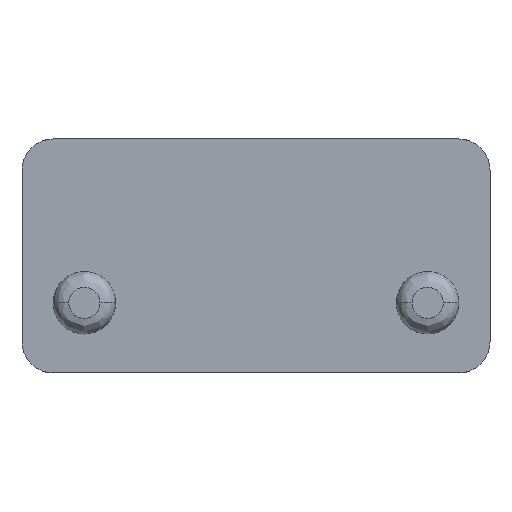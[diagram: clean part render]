
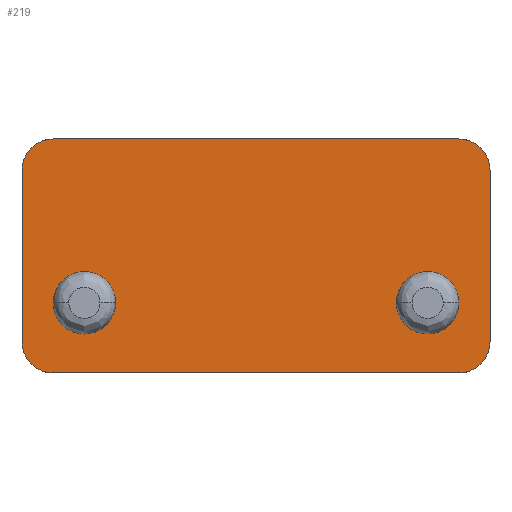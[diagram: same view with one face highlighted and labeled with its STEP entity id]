
A CAD part, left-side view. The second image highlights one B-rep face of the part: STEP entity #219.
In plain terms, the highlighted planar face has unit normal (-1, 0, 0).
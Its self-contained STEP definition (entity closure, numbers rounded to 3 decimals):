
#9 = VERTEX_POINT ( 'NONE', #563 ) ;
#14 = PLANE ( 'NONE',  #49 ) ;
#15 = EDGE_CURVE ( 'NONE', #395, #732, #393, .T. ) ;
#16 = CIRCLE ( 'NONE', #581, 2. ) ;
#21 = ORIENTED_EDGE ( 'NONE', *, *, #458, .F. ) ;
#28 = CARTESIAN_POINT ( 'NONE',  ( 0., -13., -4.5 ) ) ;
#35 = DIRECTION ( 'NONE',  ( 0., -1., 0. ) ) ;
#46 = ORIENTED_EDGE ( 'NONE', *, *, #561, .F. ) ;
#49 = AXIS2_PLACEMENT_3D ( 'NONE', #625, #387, #145 ) ;
#51 = VECTOR ( 'NONE', #674, 1000. ) ;
#71 = DIRECTION ( 'NONE',  ( 1., 0., 0. ) ) ;
#74 = DIRECTION ( 'NONE',  ( -1., 0., 0. ) ) ;
#93 = LINE ( 'NONE', #337, #530 ) ;
#94 = AXIS2_PLACEMENT_3D ( 'NONE', #768, #306, #981 ) ;
#109 = VERTEX_POINT ( 'NONE', #961 ) ;
#110 = CARTESIAN_POINT ( 'NONE',  ( 0., 0., -4.5 ) ) ;
#114 = VERTEX_POINT ( 'NONE', #969 ) ;
#124 = EDGE_LOOP ( 'NONE', ( #390, #653, #731, #415, #21, #46, #953, #326 ) ) ;
#125 = AXIS2_PLACEMENT_3D ( 'NONE', #454, #71, #347 ) ;
#145 = DIRECTION ( 'NONE',  ( 0., 0., -1. ) ) ;
#152 = DIRECTION ( 'NONE',  ( 0., 0., 1. ) ) ;
#167 = AXIS2_PLACEMENT_3D ( 'NONE', #487, #956, #886 ) ;
#168 = DIRECTION ( 'NONE',  ( -1., 0., 0. ) ) ;
#181 = CARTESIAN_POINT ( 'NONE',  ( 0., 11., -2. ) ) ;
#209 = CARTESIAN_POINT ( 'NONE',  ( 0., 15., 0. ) ) ;
#215 = CARTESIAN_POINT ( 'NONE',  ( 0., -11., 0. ) ) ;
#217 = VERTEX_POINT ( 'NONE', #524 ) ;
#219 = ADVANCED_FACE ( '1268', ( #536, #847, #230 ), #14, .F. ) ;
#222 = CARTESIAN_POINT ( 'NONE',  ( 0., 15., 8.5 ) ) ;
#228 = DIRECTION ( 'NONE',  ( 0., 0., 1. ) ) ;
#230 = FACE_OUTER_BOUND ( 'NONE', #124, .T. ) ;
#237 = EDGE_LOOP ( 'NONE', ( #403, #782 ) ) ;
#263 = CARTESIAN_POINT ( 'NONE',  ( 0., 13., 8.5 ) ) ;
#266 = EDGE_LOOP ( 'NONE', ( #853, #891 ) ) ;
#281 = CIRCLE ( 'NONE', #543, 2. ) ;
#298 = CIRCLE ( 'NONE', #377, 2. ) ;
#306 = DIRECTION ( 'NONE',  ( 1., 0., 0. ) ) ;
#308 = CARTESIAN_POINT ( 'NONE',  ( 0., 13., 10.5 ) ) ;
#320 = EDGE_CURVE ( 'NONE', #9, #391, #792, .T. ) ;
#324 = EDGE_CURVE ( 'NONE', #664, #109, #525, .T. ) ;
#326 = ORIENTED_EDGE ( 'NONE', *, *, #972, .F. ) ;
#337 = CARTESIAN_POINT ( 'NONE',  ( 0., 0., 10.5 ) ) ;
#339 = VERTEX_POINT ( 'NONE', #181 ) ;
#340 = CARTESIAN_POINT ( 'NONE',  ( 0., -15., 0. ) ) ;
#347 = DIRECTION ( 'NONE',  ( 0., 0., 1. ) ) ;
#348 = AXIS2_PLACEMENT_3D ( 'NONE', #770, #74, #228 ) ;
#377 = AXIS2_PLACEMENT_3D ( 'NONE', #263, #799, #579 ) ;
#387 = DIRECTION ( 'NONE',  ( 1., 0., 0. ) ) ;
#390 = ORIENTED_EDGE ( 'NONE', *, *, #570, .F. ) ;
#391 = VERTEX_POINT ( 'NONE', #811 ) ;
#393 = CIRCLE ( 'NONE', #167, 2. ) ;
#395 = VERTEX_POINT ( 'NONE', #730 ) ;
#403 = ORIENTED_EDGE ( 'NONE', *, *, #320, .F. ) ;
#406 = LINE ( 'NONE', #340, #51 ) ;
#415 = ORIENTED_EDGE ( 'NONE', *, *, #432, .F. ) ;
#432 = EDGE_CURVE ( 'NONE', #787, #395, #93, .T. ) ;
#454 = CARTESIAN_POINT ( 'NONE',  ( 0., -13., -2.5 ) ) ;
#458 = EDGE_CURVE ( 'NONE', #551, #787, #298, .T. ) ;
#477 = CARTESIAN_POINT ( 'NONE',  ( 0., 11., 0. ) ) ;
#484 = DIRECTION ( 'NONE',  ( 0., 0., 1. ) ) ;
#487 = CARTESIAN_POINT ( 'NONE',  ( 0., -13., 8.5 ) ) ;
#489 = VERTEX_POINT ( 'NONE', #28 ) ;
#524 = CARTESIAN_POINT ( 'NONE',  ( 0., -15., -2.5 ) ) ;
#525 = CIRCLE ( 'NONE', #94, 2. ) ;
#530 = VECTOR ( 'NONE', #35, 1000. ) ;
#534 = EDGE_CURVE ( 'NONE', #339, #114, #863, .T. ) ;
#536 = FACE_BOUND ( 'NONE', #237, .T. ) ;
#543 = AXIS2_PLACEMENT_3D ( 'NONE', #477, #548, #152 ) ;
#548 = DIRECTION ( 'NONE',  ( -1., 0., 0. ) ) ;
#551 = VERTEX_POINT ( 'NONE', #222 ) ;
#561 = EDGE_CURVE ( 'NONE', #109, #551, #904, .T. ) ;
#563 = CARTESIAN_POINT ( 'NONE',  ( 0., -11., 2. ) ) ;
#570 = EDGE_CURVE ( 'NONE', #217, #489, #913, .T. ) ;
#579 = DIRECTION ( 'NONE',  ( 0., 0., 1. ) ) ;
#581 = AXIS2_PLACEMENT_3D ( 'NONE', #737, #168, #484 ) ;
#585 = CARTESIAN_POINT ( 'NONE',  ( 0., 13., -4.5 ) ) ;
#625 = CARTESIAN_POINT ( 'NONE',  ( 0., 0., 0. ) ) ;
#632 = DIRECTION ( 'NONE',  ( 0., 0., 1. ) ) ;
#633 = EDGE_CURVE ( 'NONE', #732, #217, #406, .T. ) ;
#653 = ORIENTED_EDGE ( 'NONE', *, *, #633, .F. ) ;
#660 = DIRECTION ( 'NONE',  ( 0., 1., 0. ) ) ;
#664 = VERTEX_POINT ( 'NONE', #585 ) ;
#671 = VECTOR ( 'NONE', #767, 1000. ) ;
#674 = DIRECTION ( 'NONE',  ( 0., 0., -1. ) ) ;
#685 = VECTOR ( 'NONE', #660, 1000. ) ;
#730 = CARTESIAN_POINT ( 'NONE',  ( 0., -13., 10.5 ) ) ;
#731 = ORIENTED_EDGE ( 'NONE', *, *, #15, .F. ) ;
#732 = VERTEX_POINT ( 'NONE', #840 ) ;
#737 = CARTESIAN_POINT ( 'NONE',  ( 0., -11., 0. ) ) ;
#767 = DIRECTION ( 'NONE',  ( 0., 0., 1. ) ) ;
#768 = CARTESIAN_POINT ( 'NONE',  ( 0., 13., -2.5 ) ) ;
#770 = CARTESIAN_POINT ( 'NONE',  ( 0., 11., 0. ) ) ;
#782 = ORIENTED_EDGE ( 'NONE', *, *, #860, .F. ) ;
#787 = VERTEX_POINT ( 'NONE', #308 ) ;
#792 = CIRCLE ( 'NONE', #958, 2. ) ;
#799 = DIRECTION ( 'NONE',  ( 1., 0., 0. ) ) ;
#809 = LINE ( 'NONE', #110, #685 ) ;
#811 = CARTESIAN_POINT ( 'NONE',  ( 0., -11., -2. ) ) ;
#829 = EDGE_CURVE ( 'NONE', #114, #339, #281, .T. ) ;
#840 = CARTESIAN_POINT ( 'NONE',  ( 0., -15., 8.5 ) ) ;
#847 = FACE_BOUND ( 'NONE', #266, .T. ) ;
#853 = ORIENTED_EDGE ( 'NONE', *, *, #829, .F. ) ;
#860 = EDGE_CURVE ( 'NONE', #391, #9, #16, .T. ) ;
#863 = CIRCLE ( 'NONE', #348, 2. ) ;
#886 = DIRECTION ( 'NONE',  ( 0., 0., 1. ) ) ;
#891 = ORIENTED_EDGE ( 'NONE', *, *, #534, .F. ) ;
#904 = LINE ( 'NONE', #209, #671 ) ;
#913 = CIRCLE ( 'NONE', #125, 2. ) ;
#918 = DIRECTION ( 'NONE',  ( -1., 0., 0. ) ) ;
#953 = ORIENTED_EDGE ( 'NONE', *, *, #324, .F. ) ;
#956 = DIRECTION ( 'NONE',  ( 1., 0., 0. ) ) ;
#958 = AXIS2_PLACEMENT_3D ( 'NONE', #215, #918, #632 ) ;
#961 = CARTESIAN_POINT ( 'NONE',  ( 0., 15., -2.5 ) ) ;
#969 = CARTESIAN_POINT ( 'NONE',  ( 0., 11., 2. ) ) ;
#972 = EDGE_CURVE ( 'NONE', #489, #664, #809, .T. ) ;
#981 = DIRECTION ( 'NONE',  ( 0., 0., 1. ) ) ;
